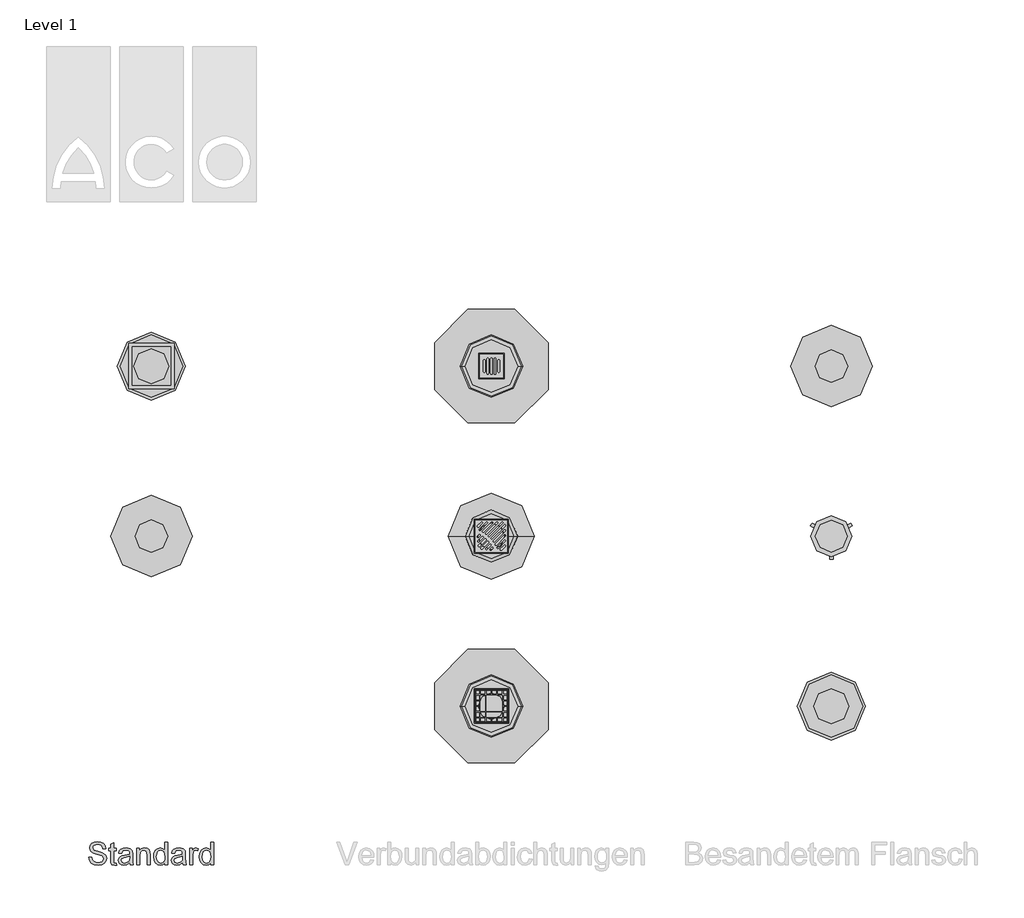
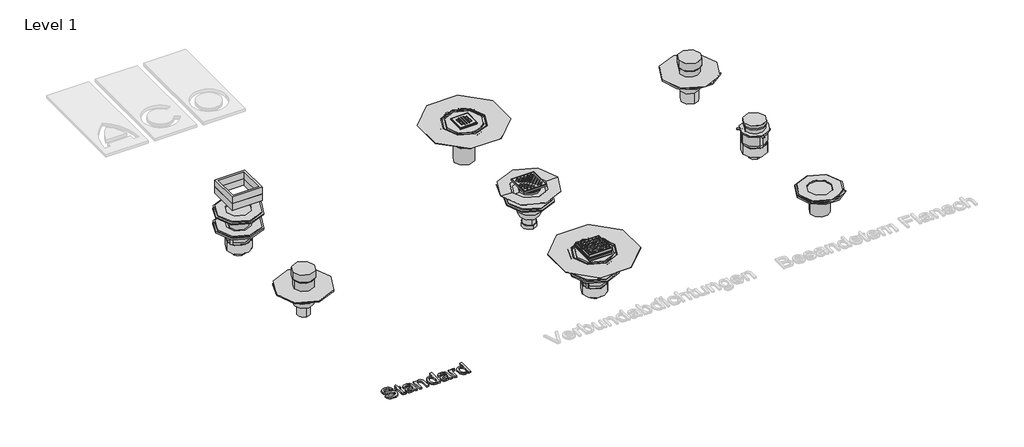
# One storey, part 1 of 2: 24 sanitary terminals, 3 dampers, 1 pipe fitting, 1 proxy.
"""IFC4 building model written with IfcOpenShell, lengths in millimetres."""

from ifc_helpers import new_model, si_unit, origin, origin_with_axes, place, context, project, spatial, polyline, outline, extrude, transform, mapped, element, save
from components import std_nested_43d58070, std_nested_a14a9c0f, std_nested_97680576, std_375e1439, std_ac43e922, std_088cccaa, std_819ccc4d, std_d3140f96, std_c2912f09, std_nested_c452d81f, std_nested_1c8f0180, std_nested_0576af5b, std_nested_a3fcedc1, std_nested_c6cb2ad9, std_nested_fb8b9016, std_nested_6c8b66a3, std_nested_0001026b, std_nested_36d552d5, std_nested_6f6e67ac

model = new_model("IFC4")

# Units and contexts
model_context = context("Model", 3, world=origin())
ifc_project = project(units=[si_unit("LENGTHUNIT", "METRE", prefix="MILLI")], contexts=[model_context])

# Site, building, storey
site = spatial("IfcSite", under=ifc_project)
building = spatial("IfcBuilding", under=site)
storey = spatial("IfcBuildingStorey", under=building, Name="Level 1", Elevation=0.0)

# Proxy
placement = place(None, origin())
element("IfcBuildingElementProxy", 1, Name="100mm ACO", ObjectType="100mm ACO", at=placement, inside=storey, context=model_context, shape_type="SweptSolid", body=[
    extrude(outline(polyline([(785.1851852, -629.6296296), (783.1741898, -620.7356771), (778.7037037, -614.3663194), (762.3842593, -609.2592593), (746.7592593, -613.2378472), (742.2453704, -618.1242766), (740.7407407, -624.8263889), (745.2112269, -634.8813657), (763.3969907, -641.1747685), (783.2320602, -646.6579861), (796.3831019, -655.5844907), (800.4846644, -662.6663773), (801.8518519, -671.8171296), (799.3453414, -683.6552373), (791.8258102, -693.3015046), (780.2770544, -699.714265), (765.6828704, -701.8518519), (747.6996528, -699.4791667), (734.8958333, -692.3611111), (727.0833333, -681.4670139), (724.0740741, -667.7662037), (737.037037, -666.6666667), (739.666522, -677.5426794), (745.8767361, -684.9971065), (754.7128183, -689.3048322), (765.2199074, -690.7407407), (782.349537, -686.009838), (787.2540509, -680.4361979), (788.8888889, -673.1770833), (787.1997975, -665.8492477), (782.1325231, -660.8217593), (758.8541667, -653.3709491), (744.6433738, -649.0306713), (735.0549769, -643.1568287), (729.5970775, -635.5287905), (727.7777778, -625.9259259), (730.0600405, -614.9305556), (736.9068287, -606.0185185), (747.6888021, -600.1157407), (761.7766204, -598.1481481), (776.3382523, -600.1302083), (787.7314815, -606.0763889), (795.240162, -615.6684028), (798.1481481, -628.587963), (785.1851852, -629.6296296)])), origin_with_axes(), (0.0, 0.0, 1.0), 10.0),
    extrude(outline(polyline([(846.2962963, -701.0127315), (837.2106481, -701.8518519), (825.6221065, -698.9728009), (821.1805556, -691.6666667), (820.3703704, -679.3402778), (820.3703704, -637.037037), (811.1111111, -637.037037), (811.1111111, -627.7777778), (820.3703704, -627.7777778), (820.3703704, -609.4328704), (833.3333333, -601.8518519), (833.3333333, -627.7777778), (844.4444444, -627.7777778), (844.4444444, -637.037037), (833.3333333, -637.037037), (833.3333333, -681.9444444), (834.375, -690.162037), (839.6701389, -692.5925926), (844.7048611, -692.5925926), (846.2962963, -701.0127315)])), origin_with_axes(), (0.0, 0.0, 1.0), 10.0),
    extrude(outline(polyline([(920.3703704, -700.0), (907.4074074, -700.0), (903.7037037, -691.2615741), (891.2109375, -699.2042824), (877.7488426, -701.8518519), (867.7625868, -700.4050926), (860.1417824, -696.0648148), (855.3132234, -689.3518519), (853.7037037, -680.787037), (855.2806713, -672.479022), (860.0115741, -665.7841435), (868.6414931, -660.8904803), (881.9155093, -657.9861111), (893.2581019, -656.25), (903.7037037, -653.7037037), (903.3709491, -645.6741898), (901.4322917, -640.7986111), (896.2673611, -636.7332176), (886.6898148, -635.1851852), (874.609375, -638.3246528), (868.5185185, -650.0), (855.5555556, -648.4085648), (859.1109664, -638.599537), (865.7841435, -631.568287), (875.567853, -627.3365162), (888.4548611, -625.9259259), (907.7112269, -629.7887731), (915.2633102, -639.1059028), (916.6666667, -653.1539352), (916.6666667, -669.6759259), (917.2164352, -689.9305556), (920.3703704, -700.0)]), holes=[polyline([(903.7037037, -667.5925926), (903.7037037, -662.962963), (880.4253472, -668.287037), (870.1063368, -672.3451968), (866.6666667, -680.5844907), (870.3703704, -689.2071759), (881.0474537, -692.5925926), (896.8605324, -686.9212963), (901.9929109, -679.2534722), (903.7037037, -667.5925926)])]), origin_with_axes(), (0.0, 0.0, 1.0), 10.0),
    extrude(outline(polyline([(994.4444444, -700.0), (981.4814815, -700.0), (981.4814815, -655.0347222), (977.6186343, -639.4386574), (966.869213, -635.1851852), (956.8431713, -637.9050926), (950.1302083, -645.5729167), (948.1481481, -659.5775463), (948.1481481, -700.0), (935.1851852, -700.0), (935.1851852, -627.7777778), (946.2962963, -627.7777778), (946.2962963, -637.818287), (956.1921296, -628.8917824), (969.4444444, -625.9259259), (980.8159722, -627.9803241), (989.6122685, -634.1290509), (993.6197917, -642.8674769), (994.4444444, -655.4108796), (994.4444444, -700.0)])), origin_with_axes(), (0.0, 0.0, 1.0), 10.0),
    extrude(outline(polyline([(1072.2222222, -700.0), (1059.2592593, -700.0), (1059.2592593, -691.8402778), (1050.9042245, -699.3489583), (1039.525463, -701.8518519), (1027.6584201, -699.2115162), (1017.9253472, -691.2905093), (1011.4257813, -679.1594329), (1009.2592593, -663.8888889), (1011.3353588, -648.1481481), (1017.5636574, -636.1111111), (1027.1990741, -628.4722222), (1039.4965278, -625.9259259), (1050.78125, -628.2118056), (1058.9988426, -635.0694444), (1059.2592593, -600.0), (1072.2222222, -600.0), (1072.2222222, -700.0)]), holes=[polyline([(1041.0300926, -692.5925926), (1048.083044, -690.8854167), (1053.9641204, -685.7638889), (1057.9354745, -677.1701389), (1059.2592593, -665.0462963), (1054.4126157, -643.287037), (1048.5134549, -637.2106481), (1040.5092593, -635.1851852), (1032.562934, -637.1672454), (1026.8373843, -643.1134259), (1022.2222222, -663.9178241), (1024.7106481, -679.6730324), (1031.6550926, -689.3518519), (1041.0300926, -692.5925926)])]), origin_with_axes(), (0.0, 0.0, 1.0), 10.0),
    extrude(outline(polyline([(1153.7037037, -700.0), (1140.7407407, -700.0), (1137.037037, -691.2615741), (1124.5442708, -699.2042824), (1111.0821759, -701.8518519), (1101.0959201, -700.4050926), (1093.4751157, -696.0648148), (1088.6465567, -689.3518519), (1087.037037, -680.787037), (1088.6140046, -672.479022), (1093.3449074, -665.7841435), (1101.9748264, -660.8904803), (1115.2488426, -657.9861111), (1126.5914352, -656.25), (1137.037037, -653.7037037), (1136.7042824, -645.6741898), (1134.765625, -640.7986111), (1129.6006944, -636.7332176), (1120.0231481, -635.1851852), (1107.9427083, -638.3246528), (1101.8518519, -650.0), (1088.8888889, -648.4085648), (1092.4442998, -638.599537), (1099.1174769, -631.568287), (1108.9011863, -627.3365162), (1121.7881944, -625.9259259), (1141.0445602, -629.7887731), (1148.5966435, -639.1059028), (1150.0, -653.1539352), (1150.0, -669.6759259), (1150.5497685, -689.9305556), (1153.7037037, -700.0)]), holes=[polyline([(1137.037037, -667.5925926), (1137.037037, -662.962963), (1113.7586806, -668.287037), (1103.4396701, -672.3451968), (1100.0, -680.5844907), (1103.7037037, -689.2071759), (1114.380787, -692.5925926), (1130.1938657, -686.9212963), (1135.3262442, -679.2534722), (1137.037037, -667.5925926)])]), origin_with_axes(), (0.0, 0.0, 1.0), 10.0),
    extrude(outline(polyline([(1207.4074074, -628.7615741), (1203.3564815, -637.037037), (1194.849537, -635.1851852), (1189.0552662, -636.8127894), (1184.8668981, -641.6956019), (1181.4814815, -659.9247685), (1181.4814815, -700.0), (1168.5185185, -700.0), (1168.5185185, -627.7777778), (1179.6296296, -627.7777778), (1179.6296296, -638.4837963), (1186.5596065, -629.0653935), (1194.994213, -625.9259259), (1207.4074074, -628.7615741)])), origin_with_axes(), (0.0, 0.0, 1.0), 10.0),
    extrude(outline(polyline([(1274.0740741, -700.0), (1261.1111111, -700.0), (1261.1111111, -691.8402778), (1252.7560764, -699.3489583), (1241.3773148, -701.8518519), (1229.510272, -699.2115162), (1219.7771991, -691.2905093), (1213.2776331, -679.1594329), (1211.1111111, -663.8888889), (1213.1872106, -648.1481481), (1219.4155093, -636.1111111), (1229.0509259, -628.4722222), (1241.3483796, -625.9259259), (1252.6331019, -628.2118056), (1260.8506944, -635.0694444), (1261.1111111, -600.0), (1274.0740741, -600.0), (1274.0740741, -700.0)]), holes=[polyline([(1242.8819444, -692.5925926), (1249.9348958, -690.8854167), (1255.8159722, -685.7638889), (1259.7873264, -677.1701389), (1261.1111111, -665.0462963), (1256.2644676, -643.287037), (1250.3653067, -637.2106481), (1242.3611111, -635.1851852), (1234.4147859, -637.1672454), (1228.6892361, -643.1134259), (1224.0740741, -663.9178241), (1226.5625, -679.6730324), (1233.5069444, -689.3518519), (1242.8819444, -692.5925926)])]), origin_with_axes(), (0.0, 0.0, 1.0), 10.0),
])

# Dampers
std_nested_shape = std_nested_43d58070(model_context)
element("IfcDamper", 2, ObjectType="ZZZ_do_not_use_PIA_GEN_UN_fit in installation set_ACO : std (nested)", at=placement, inside=storey, context=model_context, shape_type="MappedRepresentation", body=[
    mapped(std_nested_shape, transform((1000.0, 1500.0, -202.0), x_axis=(-1.0, 0.0, 0.0), y_axis=(0.0, -1.0, 0.0), z_axis=(0.0, 0.0, 1.0))),
])
element("IfcDamper", 3, ObjectType="ZZZ_do_not_use_PIA_GEN_UN_fit in installation set_ACO : std (nested)", at=placement, inside=storey, context=model_context, shape_type="MappedRepresentation", body=[
    mapped(std_nested_shape, transform((4000.0, 750.0, -118.0), x_axis=(1.0, 0.0, 0.0), y_axis=(0.0, 1.0, 0.0), z_axis=(0.0, 0.0, 1.0))),
])
std_nested_2_shape = std_nested_a14a9c0f(model_context)
element("IfcDamper", 4, ObjectType="ZZZ_do_not_use_PIA_GEN_UN_fit in installation set_ACO : std (nested)", at=placement, inside=storey, context=model_context, shape_type="MappedRepresentation", body=[
    mapped(std_nested_2_shape, transform((2500.0, 0.0, -124.0), x_axis=(-1.0, 0.0, 0.0), y_axis=(0.0, -1.0, 0.0), z_axis=(0.0, 0.0, 1.0))),
])

# Pipe fitting
std_nested_3_shape = std_nested_97680576(model_context)
element("IfcPipeFitting", 5, ObjectType="ZZZ_do_not_use_PIF_GEN_UN_hose section_ACO : std (nested)", at=placement, inside=storey, context=model_context, shape_type="MappedRepresentation", body=[
    mapped(std_nested_3_shape, transform((2500.0, 750.0, -269.0), x_axis=(0.0, -1.0, 0.0), y_axis=(1.0, 0.0, 0.0), z_axis=(0.0, 0.0, 1.0))),
])

# Sanitary terminals
std_shape = std_375e1439(model_context)
element("IfcSanitaryTerminal", 6, ObjectType="ZZZ_do_not_use_PF_CI_UN_gully body_ACO : std", at=placement, inside=storey, context=model_context, shape_type="MappedRepresentation", body=[
    mapped(std_shape, transform((2500.0, 0.0, -116.0), x_axis=(-1.0, 0.0, 0.0), y_axis=(0.0, -1.0, 0.0), z_axis=(0.0, 0.0, 1.0))),
])
std_2_shape = std_ac43e922(model_context)
element("IfcSanitaryTerminal", 7, ObjectType="ZZZ_do_not_use_PF_CI_UN_gully body_ACO : std", at=placement, inside=storey, context=model_context, shape_type="MappedRepresentation", body=[
    mapped(std_2_shape, transform((1000.0, 750.0, -170.0), x_axis=(-1.0, 0.0, 0.0), y_axis=(0.0, -1.0, 0.0), z_axis=(0.0, 0.0, 1.0))),
])
std_3_shape = std_088cccaa(model_context)
element("IfcSanitaryTerminal", 8, ObjectType="ZZZ_do_not_use_PF_CI_UN_gully body_ACO : std", at=placement, inside=storey, context=model_context, shape_type="MappedRepresentation", body=[
    mapped(std_3_shape, transform((2500.0, 750.0, -72.0), x_axis=(-1.0, 0.0, 0.0), y_axis=(0.0, -1.0, 0.0), z_axis=(0.0, 0.0, 1.0))),
])
std_4_shape = std_819ccc4d(model_context)
element("IfcSanitaryTerminal", 9, ObjectType="ZZZ_do_not_use_PF_CI_UN_gully body_ACO : std", at=placement, inside=storey, context=model_context, shape_type="MappedRepresentation", body=[
    mapped(std_4_shape, transform((4000.0, 750.0, -110.0), x_axis=(1.0, 0.0, 0.0), y_axis=(0.0, 1.0, 0.0), z_axis=(0.0, 0.0, 1.0))),
])
element("IfcSanitaryTerminal", 10, ObjectType="ZZZ_do_not_use_PF_CI_UN_gully body_ACO : std", at=placement, inside=storey, context=model_context, shape_type="MappedRepresentation", body=[
    mapped(std_3_shape, transform((1000.0, 1500.0, -194.0), x_axis=(-1.0, 0.0, 0.0), y_axis=(0.0, -1.0, 0.0), z_axis=(0.0, 0.0, 1.0))),
])
std_5_shape = std_d3140f96(model_context)
element("IfcSanitaryTerminal", 11, ObjectType="ZZZ_do_not_use_PF_CI_UN_gully body_ACO : std", at=placement, inside=storey, context=model_context, shape_type="MappedRepresentation", body=[
    mapped(std_5_shape, transform((4000.0, 1500.0, -165.0), x_axis=(1.0, 0.0, 0.0), y_axis=(0.0, 1.0, 0.0), z_axis=(0.0, 0.0, 1.0))),
])
std_6_shape = std_c2912f09(model_context)
element("IfcSanitaryTerminal", 12, ObjectType="ZZZ_do_not_use_PF_CI_UN_upper part_ACO : std", at=placement, inside=storey, context=model_context, shape_type="MappedRepresentation", body=[
    mapped(std_6_shape, transform((1000.0, 1500.0, -90.0), x_axis=(-1.0, 0.0, 0.0), y_axis=(0.0, -1.0, 0.0), z_axis=(0.0, 0.0, 1.0))),
])
element("IfcSanitaryTerminal", 13, ObjectType="ZZZ_do_not_use_PF_CI_UN_upper part_ACO : std", at=placement, inside=storey, context=model_context, shape_type="MappedRepresentation", body=[
    mapped(std_6_shape, transform((4000.0, 0.0, -85.0), x_axis=(1.0, 0.0, 0.0), y_axis=(0.0, 1.0, 0.0), z_axis=(0.0, 0.0, 1.0))),
])
std_nested_4_shape = std_nested_c452d81f(model_context)
element("IfcSanitaryTerminal", 14, ObjectType="ZZZ_do_not_use_PF_GEN_UN_composite sealing top section Passavant_ACO : std (nested)", at=placement, inside=storey, context=model_context, shape_type="MappedRepresentation", body=[
    mapped(std_nested_4_shape, transform((2500.0, 0.0, 0.0), x_axis=(1.0, 0.0, 0.0), y_axis=(0.0, 1.0, 0.0), z_axis=(0.0, 0.0, 1.0))),
])
std_nested_5_shape = std_nested_1c8f0180(model_context)
element("IfcSanitaryTerminal", 15, ObjectType="ZZZ_do_not_use_PF_GEN_UN_composite sealing top section Passavant_ACO : std (nested)", at=placement, inside=storey, context=model_context, shape_type="MappedRepresentation", body=[
    mapped(std_nested_5_shape, transform((2500.0, 750.0, 0.0), x_axis=(1.0, 0.0, 0.0), y_axis=(0.0, 1.0, 0.0), z_axis=(0.0, 0.0, 1.0))),
])
std_nested_6_shape = std_nested_0576af5b(model_context)
element("IfcSanitaryTerminal", 16, ObjectType="ZZZ_do_not_use_PF_GEN_UN_composite sealing top section Passavant_ACO : std (nested)", at=placement, inside=storey, context=model_context, shape_type="MappedRepresentation", body=[
    mapped(std_nested_6_shape, transform((2500.0, 1500.0, 0.0), x_axis=(1.0, 0.0, 0.0), y_axis=(0.0, 1.0, 0.0), z_axis=(0.0, 0.0, 1.0))),
])
std_nested_7_shape = std_nested_a3fcedc1(model_context)
element("IfcSanitaryTerminal", 17, ObjectType="ZZZ_do_not_use_PF_GEN_UN_connecting piece_ACO : std (nested)", at=placement, inside=storey, context=model_context, shape_type="MappedRepresentation", body=[
    mapped(std_nested_7_shape, transform((2500.0, 1500.0, -111.0), x_axis=(-0.7071067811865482, 0.707106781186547, 0.0), y_axis=(-0.707106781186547, -0.7071067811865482, 0.0), z_axis=(0.0, 0.0, 1.0))),
])
std_nested_8_shape = std_nested_c6cb2ad9(model_context)
element("IfcSanitaryTerminal", 18, ObjectType="ZZZ_do_not_use_PF_GEN_UN_top frame_ACO : std (nested)", at=placement, inside=storey, context=model_context, shape_type="MappedRepresentation", body=[
    mapped(std_nested_8_shape, transform((2500.0, 0.0, 28.0), x_axis=(1.0, 0.0, 0.0), y_axis=(0.0, 1.0, 0.0), z_axis=(0.0, 0.0, 1.0))),
])
element("IfcSanitaryTerminal", 19, ObjectType="ZZZ_do_not_use_PF_GEN_UN_top frame_ACO : std (nested)", at=placement, inside=storey, context=model_context, shape_type="MappedRepresentation", body=[
    mapped(std_nested_8_shape, transform((2500.0, 0.0, 25.0), x_axis=(1.0, 0.0, 0.0), y_axis=(0.0, 1.0, 0.0), z_axis=(0.0, 0.0, 1.0))),
])
std_nested_9_shape = std_nested_fb8b9016(model_context)
element("IfcSanitaryTerminal", 20, ObjectType="ZZZ_do_not_use_PF_GEN_UN_top frame_ACO : std (nested)", at=placement, inside=storey, context=model_context, shape_type="MappedRepresentation", body=[
    mapped(std_nested_9_shape, transform((2500.0, 0.0, 22.0), x_axis=(1.0, 0.0, 0.0), y_axis=(0.0, 1.0, 0.0), z_axis=(0.0, 0.0, 1.0))),
])
element("IfcSanitaryTerminal", 21, ObjectType="ZZZ_do_not_use_PF_GEN_UN_top frame_ACO : std (nested)", at=placement, inside=storey, context=model_context, shape_type="MappedRepresentation", body=[
    mapped(std_nested_9_shape, transform((2500.0, 0.0, 13.0), x_axis=(1.0, 0.0, 0.0), y_axis=(0.0, 1.0, 0.0), z_axis=(0.0, 0.0, 1.0))),
])
std_nested_10_shape = std_nested_6c8b66a3(model_context)
element("IfcSanitaryTerminal", 22, ObjectType="ZZZ_do_not_use_PF_ST_UN_extension element_ACO : std (nested)", at=placement, inside=storey, context=model_context, shape_type="MappedRepresentation", body=[
    mapped(std_nested_10_shape, transform((1000.0, 750.0, -50.0), x_axis=(-1.0, 0.0, 0.0), y_axis=(0.0, -1.0, 0.0), z_axis=(0.0, 0.0, 1.0))),
])
element("IfcSanitaryTerminal", 23, ObjectType="ZZZ_do_not_use_PF_ST_UN_extension element_ACO : std (nested)", at=placement, inside=storey, context=model_context, shape_type="MappedRepresentation", body=[
    mapped(std_nested_10_shape, transform((4000.0, 1500.0, -65.0), x_axis=(1.0, 0.0, 0.0), y_axis=(0.0, 1.0, 0.0), z_axis=(0.0, 0.0, 1.0))),
])
std_nested_11_shape = std_nested_0001026b(model_context)
element("IfcSanitaryTerminal", 24, ObjectType="ZZZ_do_not_use_PF_GEN_UN_adjustable height ring_ACO : std (nested)", at=placement, inside=storey, context=model_context, shape_type="MappedRepresentation", body=[
    mapped(std_nested_11_shape, transform((2500.0, 750.0, 20.5), x_axis=(1.0, 0.0, 0.0), y_axis=(0.0, 1.0, 0.0), z_axis=(0.0, 0.0, 1.0))),
])
element("IfcSanitaryTerminal", 25, ObjectType="ZZZ_do_not_use_PF_GEN_UN_adjustable height ring_ACO : std (nested)", at=placement, inside=storey, context=model_context, shape_type="MappedRepresentation", body=[
    mapped(std_nested_11_shape, transform((2500.0, 750.0, 14.0), x_axis=(1.0, 0.0, 0.0), y_axis=(0.0, 1.0, 0.0), z_axis=(0.0, 0.0, 1.0))),
])
element("IfcSanitaryTerminal", 26, ObjectType="ZZZ_do_not_use_PF_GEN_UN_adjustable height ring_ACO : std (nested)", at=placement, inside=storey, context=model_context, shape_type="MappedRepresentation", body=[
    mapped(std_nested_11_shape, transform((2500.0, 750.0, 7.5), x_axis=(1.0, 0.0, 0.0), y_axis=(0.0, 1.0, 0.0), z_axis=(0.0, 0.0, 1.0))),
])
std_nested_12_shape = std_nested_36d552d5(model_context)
element("IfcSanitaryTerminal", 27, ObjectType="ZZZ_do_not_use_PF_GEN_UN_connecting piece_ACO : std (nested)", at=placement, inside=storey, context=model_context, shape_type="MappedRepresentation", body=[
    mapped(std_nested_12_shape, transform((4000.0, 750.0, -50.0), x_axis=(1.0, 0.0, 0.0), y_axis=(0.0, 1.0, 0.0), z_axis=(0.0, 0.0, 1.0))),
])
std_nested_13_shape = std_nested_6f6e67ac(model_context)
element("IfcSanitaryTerminal", 28, ObjectType="ZZZ_do_not_use_PF_CI_UN_top frame_ACO : std (nested)", at=placement, inside=storey, context=model_context, shape_type="MappedRepresentation", body=[
    mapped(std_nested_13_shape, transform((1000.0, 1500.0, 92.0), x_axis=(1.0, 0.0, 0.0), y_axis=(0.0, 1.0, 0.0), z_axis=(0.0, 0.0, 1.0))),
])
element("IfcSanitaryTerminal", 29, ObjectType="ZZZ_do_not_use_PF_CI_UN_top frame_ACO : std (nested)", at=placement, inside=storey, context=model_context, shape_type="MappedRepresentation", body=[
    mapped(std_nested_13_shape, transform((1000.0, 1500.0, 46.0), x_axis=(1.0, 0.0, 0.0), y_axis=(0.0, 1.0, 0.0), z_axis=(0.0, 0.0, 1.0))),
])

save(model, "model.ifc")
